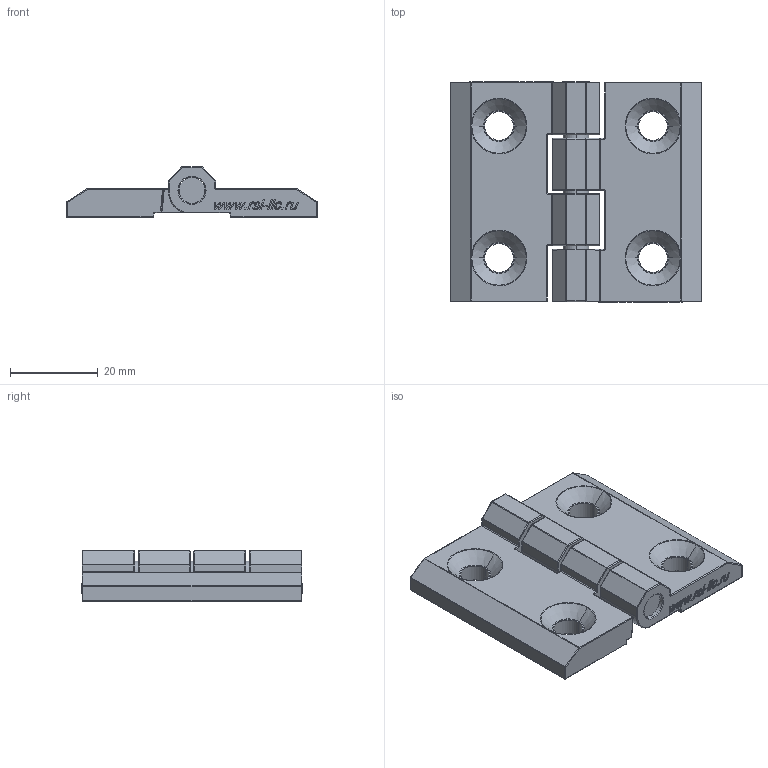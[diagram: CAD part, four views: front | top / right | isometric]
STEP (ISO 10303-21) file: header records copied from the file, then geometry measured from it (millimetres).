
FILE_DESCRIPTION (( 'STEP AP214' ), '1' );
FILE_NAME ('3028.STEP', '2020-10-09T13:45:01', ( '' ), ( '' ), 'SwSTEP 2.0', 'SolidWorks 2018', '' );
FILE_SCHEMA (( 'AUTOMOTIVE_DESIGN' ));
Length unit declared in the file: millimetre
Products named in the file (3): 3028-03; 3028-01; 3028
Assembly tree (3 placements, depth 2):
  3028
    3028-01  x2
    3028-03
Bounding box: 57 x 50.2 x 11.5 mm (x, y, z)
Volume: 13094.1 mm3; surface area: 11204.5 mm2
Topology: 3 solids, 3 shells, 788 faces, 1966 edges, 1140 vertices
Faces by surface type: plane 326, cylinder 198, bspline 100, sphere 80, torus 68, cone 16
Entity records: 15376 total; most frequent: CARTESIAN_POINT 4636, ORIENTED_EDGE 1892, DIRECTION 1784, EDGE_CURVE 946, AXIS2_PLACEMENT_3D 612, VERTEX_POINT 572, VECTOR 560, LINE 560
